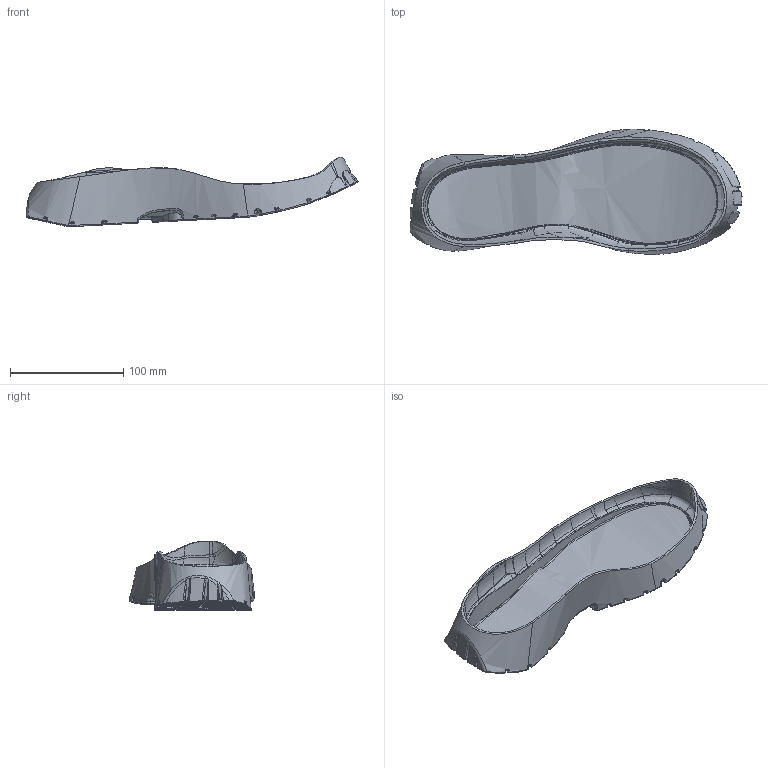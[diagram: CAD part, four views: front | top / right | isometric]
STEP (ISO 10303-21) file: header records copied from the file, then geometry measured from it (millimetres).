
FILE_DESCRIPTION(/* description */ ('Unknown'),/* implementation_level */ '2;1');
FILE_NAME(/* name */ 'Lisovací_forma_pro_podešev',/* time_stamp */ '2025-05-06T17:10:13+02:00',/* author */ ('Unknown'),/* organization */ ('Unknown'),/* preprocessor_version */ 'ST-DEVELOPER v19.4',/* originating_system */ 'Solid Edge',/* authorisation */ 'Unknown');
FILE_SCHEMA (('CONFIG_CONTROL_DESIGN'));
Products named in the file (1): Lisovací_forma_pro_podešev
Bounding box: 293.13 x 110.75 x 61.43 mm (x, y, z)
Volume: 279752.6 mm3; surface area: 91706.4 mm2
Topology: 1 solids, 1 shells, 2434 faces, 6482 edges, 3963 vertices
Faces by surface type: bspline 1602, plane 617, cylinder 93, sphere 91, torus 19, cone 12
Entity records: 124043 total; most frequent: CARTESIAN_POINT 78933, ORIENTED_EDGE 12766, EDGE_CURVE 6383, B_SPLINE_CURVE_WITH_KNOTS 4622, DIRECTION 4470, VERTEX_POINT 3953, EDGE_LOOP 2436, FACE_BOUND 2436
